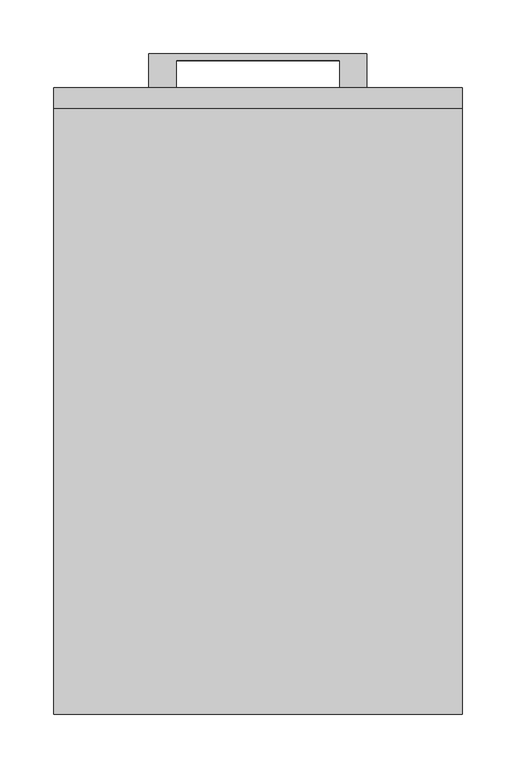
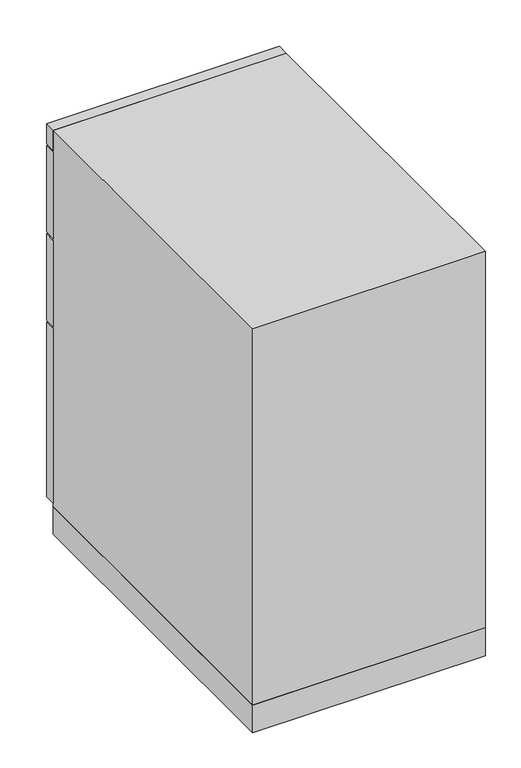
"""IFC4 building model written with IfcOpenShell, lengths in millimetres: furniture geometry, Haworth_XSeries_Pedestal : 23d 15w 27h - Box Box File - Suspended."""

from ifc_helpers import new_model, si_unit, frame, origin, origin_with_axes, place, context, project, spatial, polyline, outline, extrude, source, transform, mapped, element, save


def furniture_095f3b67(model_context):
    return source(origin(), model_context, "Body", "SweptSolid", [
        extrude(outline(polyline([(-76.1999818, 584.2), (-101.5999939, 584.2), (-101.5999939, 615.9499879), (101.5999939, 615.9499879), (101.5999939, 584.2), (76.2, 584.2), (76.2, 609.5999758), (-76.1999818, 609.5999758), (-76.1999818, 584.2)])), frame((0.0, 0.0, 468.3125506), z_axis=(0.0, 0.0, 1.0), x_axis=(1.0, 0.0, 0.0)), (0.0, 0.0, 1.0), 6.3499758),
        extrude(outline(polyline([(190.5, 565.15), (-190.5, 565.15), (-190.5, 584.2), (190.5, 584.2), (190.5, 565.15)])), frame((0.0, 0.0, 358.775), z_axis=(0.0, 0.0, 1.0), x_axis=(1.0, 0.0, 0.0)), (0.0, 0.0, 1.0), 149.225),
        extrude(outline(polyline([(-76.1999818, 584.2), (-101.5999939, 584.2), (-101.5999939, 615.9499879), (101.5999939, 615.9499879), (101.5999939, 584.2), (76.2, 584.2), (76.2, 609.5999758), (-76.1999818, 609.5999758), (-76.1999818, 584.2)])), frame((0.0, 0.0, 620.7125506), z_axis=(0.0, 0.0, 1.0), x_axis=(1.0, 0.0, 0.0)), (0.0, 0.0, 1.0), 6.3499758),
        extrude(outline(polyline([(190.5, 565.15), (-190.5, 565.15), (-190.5, 584.2), (190.5, 584.2), (190.5, 565.15)])), frame((0.0, 0.0, 511.175), z_axis=(0.0, 0.0, 1.0), x_axis=(1.0, 0.0, 0.0)), (0.0, 0.0, 1.0), 149.225),
        extrude(outline(polyline([(-76.1999818, 584.2), (-101.5999939, 584.2), (-101.5999939, 615.9499879), (101.5999939, 615.9499879), (101.5999939, 584.2), (76.2, 584.2), (76.2, 609.5999758), (-76.1999818, 609.5999758), (-76.1999818, 584.2)])), frame((0.0, 0.0, 315.9125506), z_axis=(0.0, 0.0, 1.0), x_axis=(1.0, 0.0, 0.0)), (0.0, 0.0, 1.0), 6.3499758),
        extrude(outline(polyline([(190.5, 565.15), (-190.5, 565.15), (-190.5, 584.2), (190.5, 584.2), (190.5, 565.15)])), frame((0.0, 0.0, 53.975), z_axis=(0.0, 0.0, 1.0), x_axis=(1.0, 0.0, 0.0)), (0.0, 0.0, 1.0), 301.625),
        extrude(outline(polyline([(190.5, 0.0), (-190.5, 0.0), (-190.5, 565.15), (190.5, 565.15), (190.5, 0.0)])), origin_with_axes(), (0.0, 0.0, 1.0), 47.625),
        extrude(outline(polyline([(190.5, 584.2), (190.5, 565.15), (-190.5, 565.15), (-190.5, 584.2), (190.5, 584.2)])), frame((0.0, 0.0, 663.575), z_axis=(0.0, 0.0, 1.0), x_axis=(1.0, 0.0, 0.0)), (0.0, 0.0, 1.0), 34.925),
        extrude(outline(polyline([(190.5, 0.0), (-190.5, 0.0), (-190.5, 565.15), (190.5, 565.15), (190.5, 0.0)])), frame((0.0, 0.0, 47.625), z_axis=(0.0, 0.0, 1.0), x_axis=(1.0, 0.0, 0.0)), (0.0, 0.0, 1.0), 650.875),
    ])


if __name__ == "__main__":
    model = new_model("IFC4")
    model_context = context("Model", 3, world=origin())
    ifc_project = project(units=[si_unit("LENGTHUNIT", "METRE", prefix="MILLI")], contexts=[model_context])
    site = spatial("IfcSite", under=ifc_project)
    building = spatial("IfcBuilding", under=site)
    placement = place(None, origin())
    furniture_shape = furniture_095f3b67(model_context)
    element("IfcFurniture", 1, ObjectType="Haworth_XSeries_Pedestal : 23d 15w 27h - Box Box File - Suspended", at=placement, inside=building, context=model_context, shape_type="MappedRepresentation", body=[
        mapped(furniture_shape, transform((0.0, 0.0, 0.0), x_axis=(1.0, 0.0, 0.0), y_axis=(0.0, 1.0, 0.0), z_axis=(0.0, 0.0, 1.0))),
    ])
    save(model, "model.ifc")
